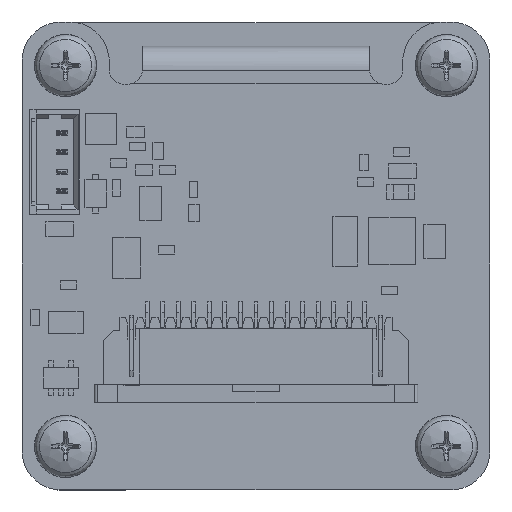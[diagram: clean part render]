
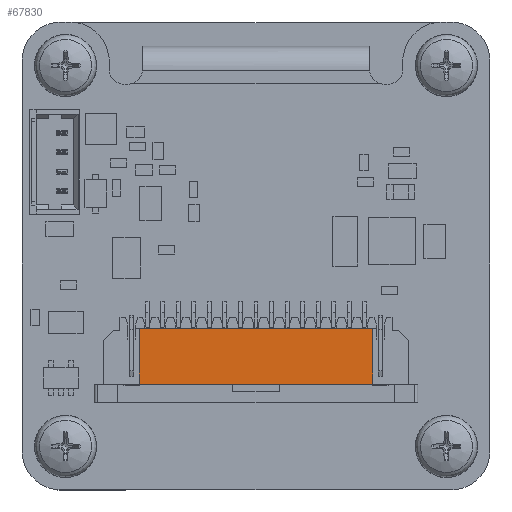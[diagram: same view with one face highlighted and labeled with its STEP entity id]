
A CAD part, top view. The second image highlights one B-rep face of the part: STEP entity #67830.
In plain terms, the highlighted planar face has unit normal (0, 0, 1).
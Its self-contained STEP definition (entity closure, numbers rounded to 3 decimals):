
#6872=LINE('',#98425,#15669);
#6873=LINE('',#98427,#15670);
#6874=LINE('',#98429,#15671);
#6875=LINE('',#98430,#15672);
#15669=VECTOR('',#80976,1.);
#15670=VECTOR('',#80977,1.);
#15671=VECTOR('',#80978,1.);
#15672=VECTOR('',#80979,1.);
#22192=PLANE('',#71813);
#26089=FACE_OUTER_BOUND('',#29626,.T.);
#29626=EDGE_LOOP('',(#55581,#55582,#55583,#55584));
#34889=VERTEX_POINT('',#98423);
#34890=VERTEX_POINT('',#98424);
#34891=VERTEX_POINT('',#98426);
#34892=VERTEX_POINT('',#98428);
#42296=EDGE_CURVE('',#34889,#34890,#6872,.T.);
#42297=EDGE_CURVE('',#34889,#34891,#6873,.T.);
#42298=EDGE_CURVE('',#34892,#34891,#6874,.T.);
#42299=EDGE_CURVE('',#34890,#34892,#6875,.T.);
#55581=ORIENTED_EDGE('',*,*,#42296,.F.);
#55582=ORIENTED_EDGE('',*,*,#42297,.T.);
#55583=ORIENTED_EDGE('',*,*,#42298,.F.);
#55584=ORIENTED_EDGE('',*,*,#42299,.F.);
#67830=ADVANCED_FACE('',(#26089),#22192,.F.);
#71813=AXIS2_PLACEMENT_3D('',#98422,#80974,#80975);
#80974=DIRECTION('center_axis',(0.,0.,-1.));
#80975=DIRECTION('ref_axis',(-1.,0.,0.));
#80976=DIRECTION('',(1.,0.,0.));
#80977=DIRECTION('',(0.,-1.,0.));
#80978=DIRECTION('',(-1.,0.,0.));
#80979=DIRECTION('',(0.,-1.,0.));
#98422=CARTESIAN_POINT('Origin',(24.8,5.55,2.713));
#98423=CARTESIAN_POINT('',(7.5,10.35,2.713));
#98424=CARTESIAN_POINT('',(22.5,10.35,2.713));
#98425=CARTESIAN_POINT('',(7.5,10.35,2.713));
#98426=CARTESIAN_POINT('',(7.5,6.75,2.713));
#98427=CARTESIAN_POINT('',(7.5,10.35,2.713));
#98428=CARTESIAN_POINT('',(22.5,6.75,2.713));
#98429=CARTESIAN_POINT('',(22.5,6.75,2.713));
#98430=CARTESIAN_POINT('',(22.5,10.35,2.713));
